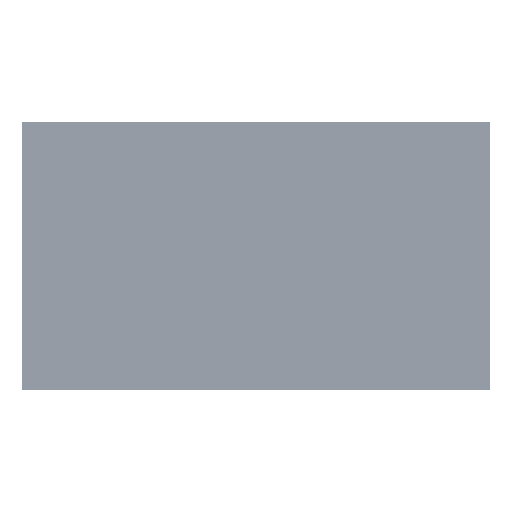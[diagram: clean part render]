
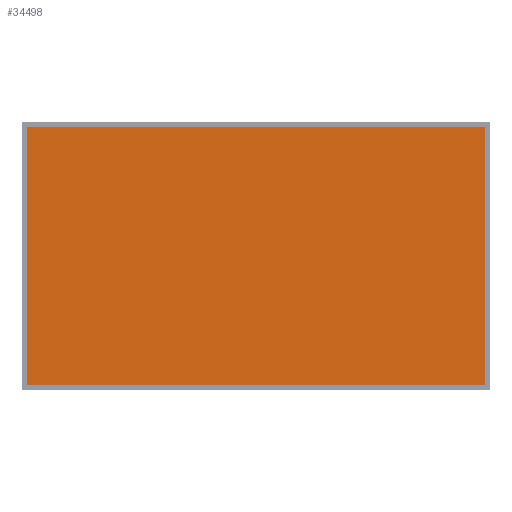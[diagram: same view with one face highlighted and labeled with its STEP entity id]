
A CAD part, top view. The second image highlights one B-rep face of the part: STEP entity #34498.
In plain terms, the highlighted planar face has unit normal (0, 0, 1) as drawn and (0, 1, 0) by its records, which use the part's own axes.
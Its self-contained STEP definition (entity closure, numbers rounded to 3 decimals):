
#34336=DIRECTION('',(0.,0.,1.));
#34337=VECTOR('',#34336,688.65);
#34338=CARTESIAN_POINT('',(-609.1,0.164,-344.325));
#34339=LINE('',#34338,#34337);
#34344=DIRECTION('',(-1.,0.,0.));
#34345=VECTOR('',#34344,1218.2);
#34346=CARTESIAN_POINT('',(609.1,0.164,-344.325));
#34347=LINE('',#34346,#34345);
#34352=DIRECTION('',(0.,0.,-1.));
#34353=VECTOR('',#34352,688.65);
#34354=CARTESIAN_POINT('',(609.1,0.164,344.325));
#34355=LINE('',#34354,#34353);
#34360=DIRECTION('',(1.,0.,0.));
#34361=VECTOR('',#34360,1218.2);
#34362=CARTESIAN_POINT('',(-609.1,0.164,344.325));
#34363=LINE('',#34362,#34361);
#34372=CARTESIAN_POINT('',(-609.1,0.164,-344.325));
#34373=VERTEX_POINT('',#34372);
#34374=CARTESIAN_POINT('',(-609.1,0.164,344.325));
#34375=VERTEX_POINT('',#34374);
#34376=CARTESIAN_POINT('',(609.1,0.164,-344.325));
#34377=VERTEX_POINT('',#34376);
#34378=CARTESIAN_POINT('',(609.1,0.164,344.325));
#34379=VERTEX_POINT('',#34378);
#34487=CARTESIAN_POINT('',(0.,0.164,0.));
#34488=DIRECTION('',(0.,1.,0.));
#34489=DIRECTION('',(1.,0.,0.));
#34490=AXIS2_PLACEMENT_3D('',#34487,#34488,#34489);
#34491=PLANE('',#34490);
#34492=ORIENTED_EDGE('',*,*,#34411,.F.);
#34493=ORIENTED_EDGE('',*,*,#34433,.F.);
#34494=ORIENTED_EDGE('',*,*,#34454,.F.);
#34495=ORIENTED_EDGE('',*,*,#34474,.F.);
#34496=EDGE_LOOP('',(#34492,#34493,#34494,#34495));
#34497=FACE_OUTER_BOUND('',#34496,.F.);
#34498=ADVANCED_FACE('',(#34497),#34491,.T.);
#34411=EDGE_CURVE('',#34373,#34375,#34339,.T.);
#34433=EDGE_CURVE('',#34377,#34373,#34347,.T.);
#34454=EDGE_CURVE('',#34379,#34377,#34355,.T.);
#34474=EDGE_CURVE('',#34375,#34379,#34363,.T.);
